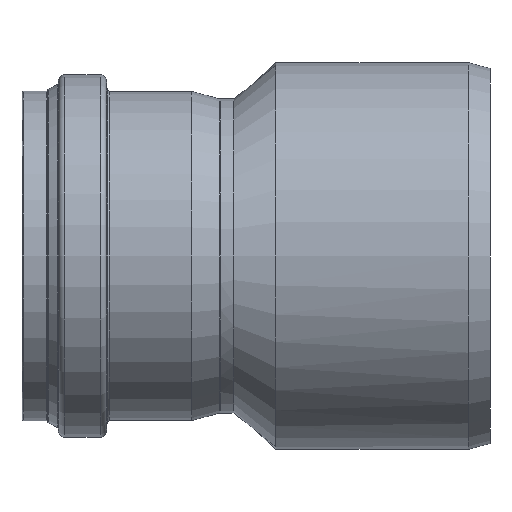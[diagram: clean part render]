
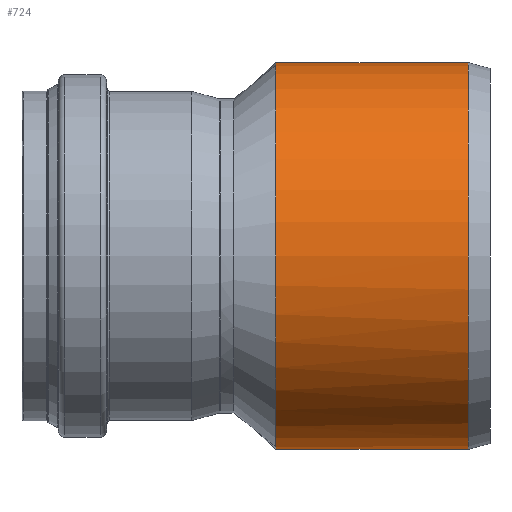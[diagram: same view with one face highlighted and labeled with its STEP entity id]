
A CAD part, left-side view. The second image highlights one B-rep face of the part: STEP entity #724.
In plain terms, the highlighted cylindrical face has radius 125.15 mm (diameter 250.3 mm), a full revolution.
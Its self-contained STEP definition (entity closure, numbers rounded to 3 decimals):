
#44=LINE('',#1621,#66);
#66=VECTOR('',#959,125.15);
#87=CYLINDRICAL_SURFACE('',#802,125.15);
#103=FACE_OUTER_BOUND('',#146,.T.);
#146=EDGE_LOOP('',(#509,#510,#511,#512,#513,#514));
#197=CIRCLE('',#799,125.15);
#198=CIRCLE('',#800,125.15);
#199=CIRCLE('',#801,125.15);
#200=CIRCLE('',#803,125.15);
#288=VERTEX_POINT('',#1610);
#289=VERTEX_POINT('',#1613);
#290=VERTEX_POINT('',#1615);
#291=VERTEX_POINT('',#1619);
#372=EDGE_CURVE('',#289,#288,#197,.T.);
#373=EDGE_CURVE('',#290,#289,#198,.T.);
#374=EDGE_CURVE('',#288,#290,#199,.T.);
#375=EDGE_CURVE('',#291,#291,#200,.T.);
#376=EDGE_CURVE('',#291,#290,#44,.T.);
#509=ORIENTED_EDGE('',*,*,#375,.F.);
#510=ORIENTED_EDGE('',*,*,#376,.T.);
#511=ORIENTED_EDGE('',*,*,#373,.T.);
#512=ORIENTED_EDGE('',*,*,#372,.T.);
#513=ORIENTED_EDGE('',*,*,#374,.T.);
#514=ORIENTED_EDGE('',*,*,#376,.F.);
#724=ADVANCED_FACE('',(#103),#87,.T.);
#799=AXIS2_PLACEMENT_3D('',#1614,#949,#950);
#800=AXIS2_PLACEMENT_3D('',#1616,#951,#952);
#801=AXIS2_PLACEMENT_3D('',#1617,#953,#954);
#802=AXIS2_PLACEMENT_3D('',#1618,#955,#956);
#803=AXIS2_PLACEMENT_3D('',#1620,#957,#958);
#949=DIRECTION('center_axis',(0.,-1.,0.));
#950=DIRECTION('ref_axis',(1.,0.,0.));
#951=DIRECTION('center_axis',(0.,-1.,0.));
#952=DIRECTION('ref_axis',(1.,0.,0.));
#953=DIRECTION('center_axis',(0.,-1.,0.));
#954=DIRECTION('ref_axis',(1.,0.,0.));
#955=DIRECTION('center_axis',(0.,-1.,0.));
#956=DIRECTION('ref_axis',(-1.,0.,0.));
#957=DIRECTION('center_axis',(0.,-1.,0.));
#958=DIRECTION('ref_axis',(1.,0.,0.));
#959=DIRECTION('',(0.,1.,0.));
#1610=CARTESIAN_POINT('',(-18.217,138.74,-117.993));
#1613=CARTESIAN_POINT('',(-101.65,138.74,0.));
#1614=CARTESIAN_POINT('Origin',(23.5,138.74,0.));
#1615=CARTESIAN_POINT('',(148.65,138.74,0.));
#1616=CARTESIAN_POINT('Origin',(23.5,138.74,0.));
#1617=CARTESIAN_POINT('Origin',(23.5,138.74,0.));
#1618=CARTESIAN_POINT('Origin',(23.5,76.37,0.));
#1619=CARTESIAN_POINT('',(148.65,14.,0.));
#1620=CARTESIAN_POINT('Origin',(23.5,14.,0.));
#1621=CARTESIAN_POINT('',(148.65,76.37,0.));
